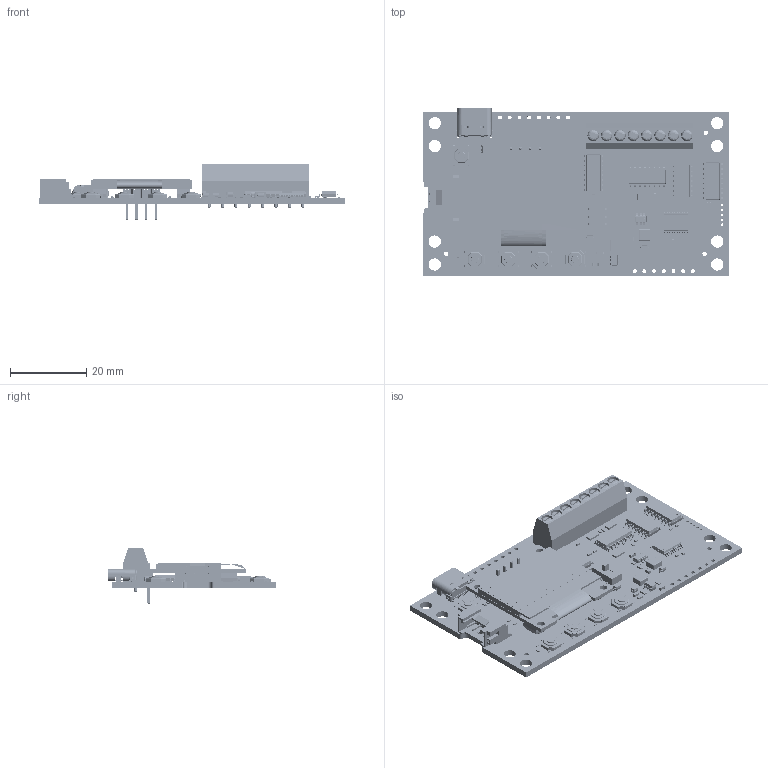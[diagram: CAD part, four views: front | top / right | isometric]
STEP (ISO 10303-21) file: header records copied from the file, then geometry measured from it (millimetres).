
FILE_DESCRIPTION(('FreeCAD Model'),'2;1');
FILE_NAME('Open CASCADE Shape Model','2023-10-03T09:57:32',(''),(''), 'Open CASCADE STEP processor 7.6','FreeCAD','Unknown');
FILE_SCHEMA(('AUTOMOTIVE_DESIGN { 1 0 10303 214 1 1 1 1 }'));
Length unit declared in the file: millimetre
Products named in the file (74): encoder_counter; Local_CS_1fbc; Board_Geoms_1fbc; Pcb_1fbc; PCB_Sketch_1fbc; botSilks_c685; topSilks_cb51; Step_Models_1fbc; Top_1fbc; R7_R_1206_3216Metric_f61b117e1f83; C13_C_0402_1005Metric_43f982c1e650; U6_SOIC_16_39x99mm_P127mm_2fbf3a0464df; U9_2C6DFCC3-5F45-4B46-B2A4-A2A693A14061_ee65127a7204; SW1_TS-1187A-B-A-B007_078af5f65e79; TS-1187A-B-A-B; TS-1187A-B-A-B001; TS-1187A-B-A-B002; TS-1187A-B-A-B003; TS-1187A-B-A-B004; TS-1187A-B-A-B005; TS-1187A-B-A-B006; D5_D_SMB_fb228d3b3477; J3_User_Library-128x64I2COLEDDisplayAdafruit004_4c61b80b3987; User_Library-128x64I2COLEDDisplayAdafruit; User_Library-128x64I2COLEDDisplayAdafruit001; User_Library-128x64I2COLEDDisplayAdafruit002; User_Library-128x64I2COLEDDisplayAdafruit003; J1_Grove_Connector_(flat)_99f7f3a04350; R14_R_0603_1608Metric_dcc87a16d2e4; U3_SOIC_14_39x87mm_P127mm_e295cd4ebd3e; J6_User Library-KF350-2P_ee313ec9e9ad; KF850-1P; KF850 Body; KF850 PIN; M2 Screw_91200A102; M2 Screw_91200A100; M2 Screw_91200A101; KF850-1P001; KF850 Body001; KF850 PIN001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
Assembly tree (115 placements, depth 7):
  encoder_counter
    Local_CS_1fbc
    Board_Geoms_1fbc
      Pcb_1fbc
      PCB_Sketch_1fbc
      botSilks_c685
      topSilks_cb51
    Step_Models_1fbc
      Top_1fbc
        R7_R_1206_3216Metric_f61b117e1f83  x3
        C13_C_0402_1005Metric_43f982c1e650  x10
        U6_SOIC_16_39x99mm_P127mm_2fbf3a0464df  x3
        U9_2C6DFCC3-5F45-4B46-B2A4-A2A693A14061_ee65127a7204
        SW1_TS-1187A-B-A-B007_078af5f65e79  x5
          TS-1187A-B-A-B
          TS-1187A-B-A-B001
          TS-1187A-B-A-B002
          TS-1187A-B-A-B003
          TS-1187A-B-A-B004
          TS-1187A-B-A-B005
          TS-1187A-B-A-B006
        D5_D_SMB_fb228d3b3477  x2
        J3_User_Library-128x64I2COLEDDisplayAdafruit004_4c61b80b3987
          User_Library-128x64I2COLEDDisplayAdafruit
          User_Library-128x64I2COLEDDisplayAdafruit001
          User_Library-128x64I2COLEDDisplayAdafruit002
          User_Library-128x64I2COLEDDisplayAdafruit003
        J1_Grove_Connector_(flat)_99f7f3a04350
        R14_R_0603_1608Metric_dcc87a16d2e4  x4
        U3_SOIC_14_39x87mm_P127mm_e295cd4ebd3e
        J6_User Library-KF350-2P_ee313ec9e9ad  x4
          KF850-1P
            KF850 Body
            KF850 PIN
            M2 Screw_91200A102
              M2 Screw_91200A100
              M2 Screw_91200A101
          KF850-1P001
            KF850 Body001
            KF850 PIN001
            M2 Screw_91200A105
              M2 Screw_91200A103
              M2 Screw_91200A104
        R12_R_0402_1005Metric_4911baa571d4  x12
        C7_C_0603_1608Metric_93e458ea021c  x4
        D1_D_SOD_323_7da603309b3b  x3
        J7_698B116-164-211_3e7b34773a9b
          Insulator 698B116-X64-211
          Contacts 698B116-X64-231
            Contacts 698B116-X64-211
            Contacts 698B116-X64-212
            Contacts 698B116-X64-213
            Contacts 698B116-X64-214
            Contacts 698B116-X64-215
            Contacts 698B116-X64-216
            Contacts 698B116-X64-217
            Contacts 698B116-X64-218
            Contacts 698B116-X64-219
            Contacts 698B116-X64-220
            Contacts 698B116-X64-221
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Bounding box: 80 x 43.97 x 14.67 mm (x, y, z)
Volume: 8840.6 mm3; surface area: 17101.5 mm2
Topology: 144 solids, 695 shells, 8370 faces, 42617 edges, 35086 vertices
Faces by surface type: plane 4987, cylinder 2343, bspline 761, sphere 136, torus 92, cone 51
Full cylindrical faces by diameter (mm): 0.5 x1, 0.6 x4, 0.65 x5, 0.7 x2, 0.9 x2, 1.02 x15, 1.05 x4, 1.1 x8, 1.152 x3, 3.2 x8
Entity records: 349296 total; most frequent: CARTESIAN_POINT 79955, ORIENTED_EDGE 46657, DIRECTION 43812, EDGE_CURVE 34277, LINE 30438, VECTOR 30438, VERTEX_POINT 29888, AXIS2_PLACEMENT_3D 6687
